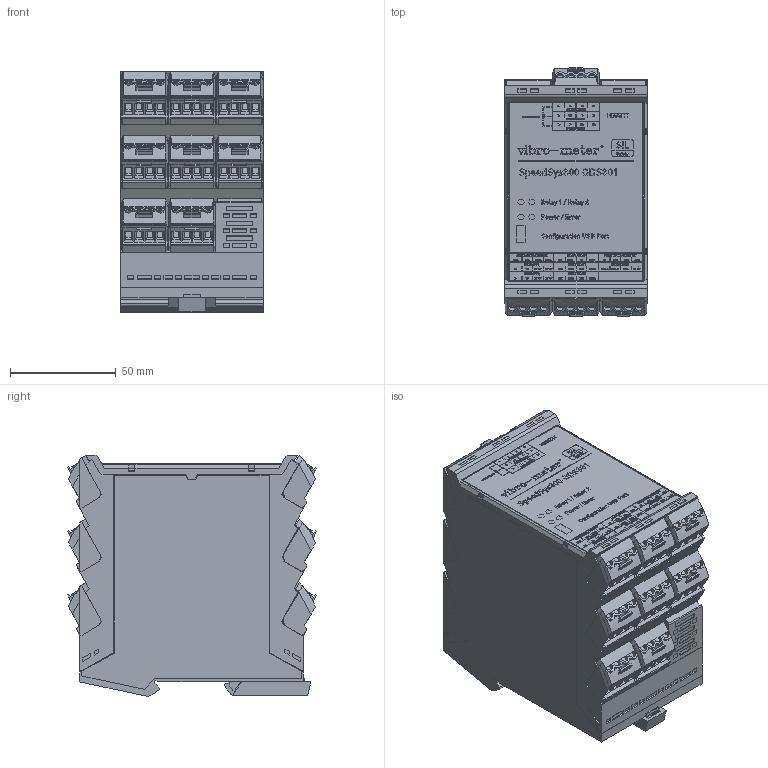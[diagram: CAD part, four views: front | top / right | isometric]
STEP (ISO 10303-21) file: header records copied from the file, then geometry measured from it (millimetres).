
FILE_DESCRIPTION (( 'STEP AP214' ), '1' );
FILE_NAME ('600-046-000-001.STEP', '2021-03-25T07:45:30', ( 'IT' ), ( 'MSS - CH' ), 'SwSTEP 2.0', 'SolidWorks 2017', '' );
FILE_SCHEMA (( 'AUTOMOTIVE_DESIGN' ));
Length unit declared in the file: millimetre
Products named in the file (10): 1063250000; 1221310000; 600-046-000-001-etiquette_D‚faut; 1069350000; 1235310000; 600-046-000-001; 1069380000; 1420370000; 1063180000; 1235270000
Assembly tree (26 placements, depth 2):
  600-046-000-001
    1235270000
    1069350000  x8
    1420370000  x2
    1221310000  x7
    1063250000  x3
    1069380000  x3
    1235310000
    600-046-000-001-etiquette_D‚faut
  1063180000
Bounding box: 67.5 x 117.71 x 114.02 mm (x, y, z)
Volume: 151404 mm3; surface area: 217989.2 mm2
Topology: 113 solids, 113 shells, 13806 faces, 37605 edges, 24842 vertices
Faces by surface type: plane 9169, bspline 3006, cylinder 1631
Entity records: 403732 total; most frequent: CARTESIAN_POINT 152803, ORIENTED_EDGE 43348, DIRECTION 29328, EDGE_CURVE 21674, VECTOR 16316, LINE 16316, VERTEX_POINT 14403, EDGE_LOOP 8563
